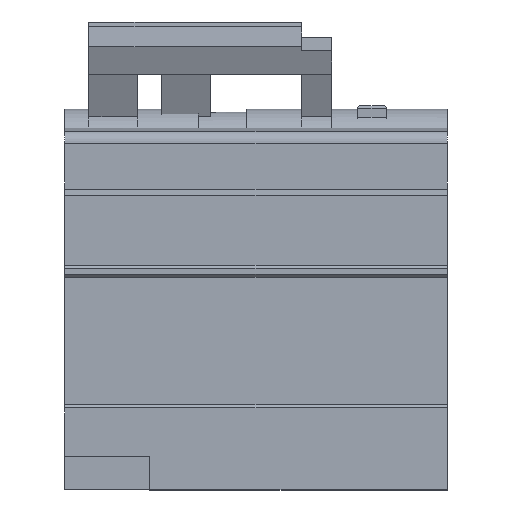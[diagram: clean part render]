
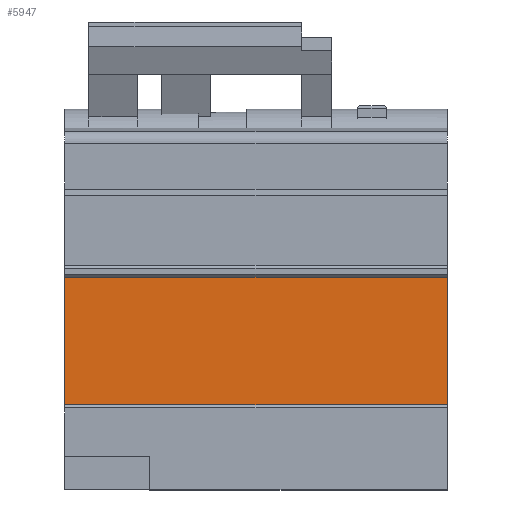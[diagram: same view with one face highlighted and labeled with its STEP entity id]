
A CAD part, front view. The second image highlights one B-rep face of the part: STEP entity #5947.
In plain terms, the highlighted planar face has unit normal (0, -1, 0).
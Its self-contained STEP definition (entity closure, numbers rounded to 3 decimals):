
#197=LINE('',#8330,#731);
#441=LINE('',#9990,#975);
#506=LINE('',#10150,#1040);
#507=LINE('',#10152,#1041);
#731=VECTOR('',#6736,10.);
#975=VECTOR('',#7474,10.);
#1040=VECTOR('',#7643,10.);
#1041=VECTOR('',#7646,10.);
#1398=PLANE('',#6443);
#1805=FACE_OUTER_BOUND('',#2219,.T.);
#2219=EDGE_LOOP('',(#5009,#5010,#5011,#5012));
#2595=VERTEX_POINT('',#8327);
#2596=VERTEX_POINT('',#8329);
#2902=VERTEX_POINT('',#9987);
#2903=VERTEX_POINT('',#9989);
#3172=EDGE_CURVE('',#2595,#2596,#197,.T.);
#3597=EDGE_CURVE('',#2903,#2902,#441,.T.);
#3678=EDGE_CURVE('',#2902,#2596,#506,.T.);
#3679=EDGE_CURVE('',#2903,#2595,#507,.T.);
#5009=ORIENTED_EDGE('',*,*,#3597,.T.);
#5010=ORIENTED_EDGE('',*,*,#3678,.T.);
#5011=ORIENTED_EDGE('',*,*,#3172,.F.);
#5012=ORIENTED_EDGE('',*,*,#3679,.F.);
#5947=ADVANCED_FACE('',(#1805),#1398,.T.);
#6443=AXIS2_PLACEMENT_3D('',#10151,#7644,#7645);
#6736=DIRECTION('',(0.,0.,-1.));
#7474=DIRECTION('',(0.,0.,-1.));
#7643=DIRECTION('',(1.,0.,0.));
#7644=DIRECTION('center_axis',(0.,-1.,0.));
#7645=DIRECTION('ref_axis',(0.,0.,-1.));
#7646=DIRECTION('',(1.,0.,0.));
#8327=CARTESIAN_POINT('',(63.,-6.653,-21.84));
#8329=CARTESIAN_POINT('',(63.,-6.653,-42.84));
#8330=CARTESIAN_POINT('',(63.,-6.653,-21.84));
#9987=CARTESIAN_POINT('',(0.,-6.653,-42.84));
#9989=CARTESIAN_POINT('',(0.,-6.653,-21.84));
#9990=CARTESIAN_POINT('',(0.,-6.653,-21.84));
#10150=CARTESIAN_POINT('',(0.,-6.653,-42.84));
#10151=CARTESIAN_POINT('Origin',(0.,-6.653,-21.84));
#10152=CARTESIAN_POINT('',(0.,-6.653,-21.84));
